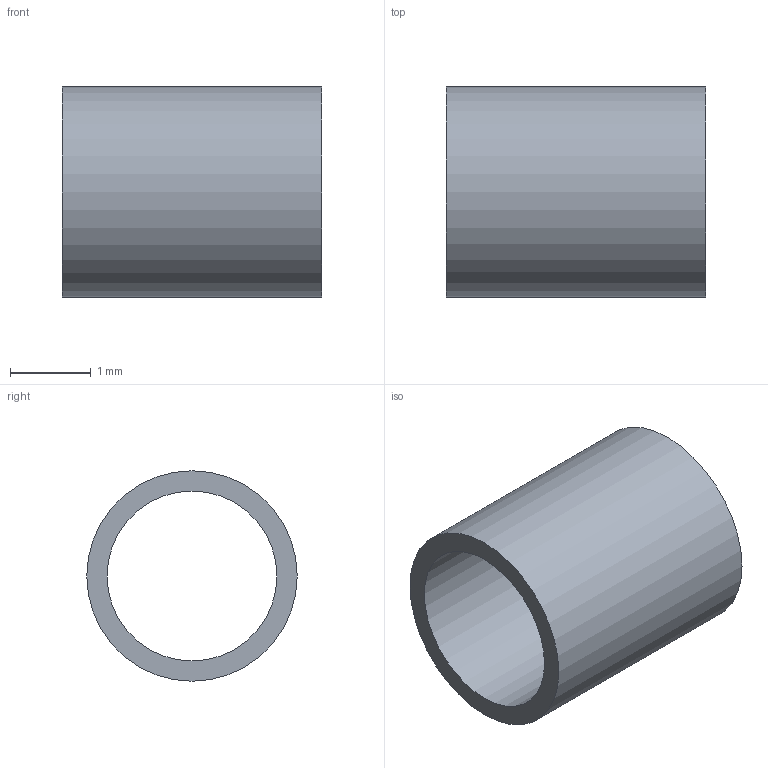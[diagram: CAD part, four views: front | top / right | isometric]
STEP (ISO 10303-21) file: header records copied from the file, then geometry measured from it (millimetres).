
FILE_DESCRIPTION(('FreeCAD Model'),'2;1');
FILE_NAME('Open CASCADE Shape Model','2026-11-13T18:42:42',('FreeCAD'),( 'FreeCAD'),'Open CASCADE STEP processor 7.8','FreeCAD','Unknown');
FILE_SCHEMA(('AUTOMOTIVE_DESIGN { 1 0 10303 214 1 1 1 1 }'));
Length unit declared in the file: millimetre
Products named in the file (1): Open CASCADE STEP translator 7.8 25
Bounding box: 3.2 x 2.6 x 2.6 mm (x, y, z)
Volume: 5.9 mm3; surface area: 50.9 mm2
Topology: 1 solids, 1 shells, 4 faces, 6 edges, 4 vertices
Faces by surface type: cylinder 2, plane 2
Full cylindrical faces by diameter (mm): 2.1 x1, 2.6 x1
Entity records: 108 total; most frequent: DIRECTION 20, CARTESIAN_POINT 15, ORIENTED_EDGE 12, AXIS2_PLACEMENT_3D 9, FACE_BOUND 6, EDGE_LOOP 6, EDGE_CURVE 6, ADVANCED_FACE 4
